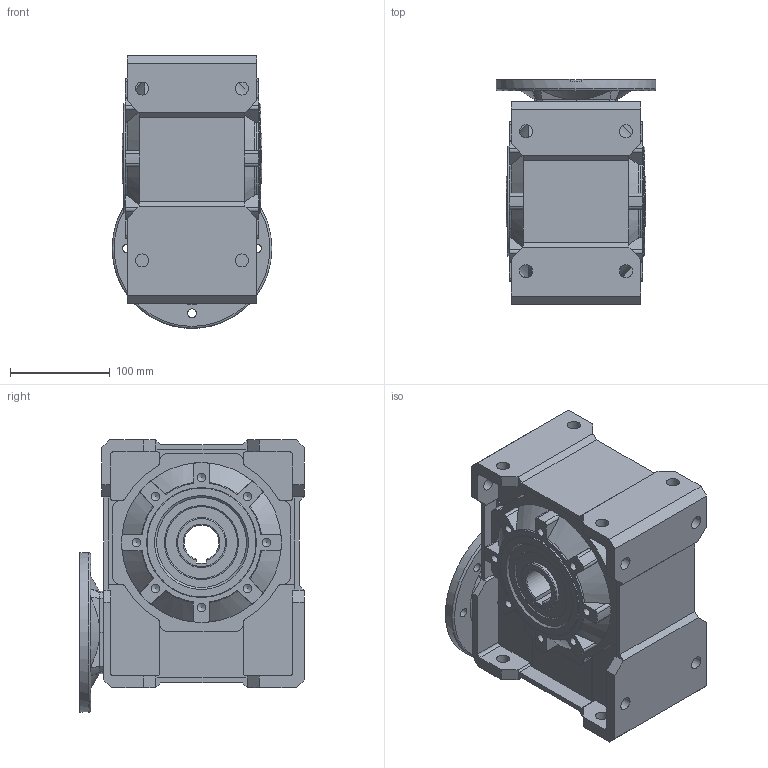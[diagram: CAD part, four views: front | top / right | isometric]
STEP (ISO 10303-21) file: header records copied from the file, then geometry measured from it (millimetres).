
FILE_DESCRIPTION( ( 'Unknown' ), '1' );
FILE_NAME( 'E:/services/configuratordownloads/customers/tramec/xh/download/9AAC9BA2F0F97E746EC7C6F17DD9E50/STEP/9AAC9BA2F0F97E746EC7C6F17DD9E50.3d.stp', 'Unknown', ( 'Unknown' ), ( 'Unknown' ), 'PSStep 10.1', 'Unknown', ' ' );
FILE_SCHEMA( ( 'AUTOMOTIVE_DESIGN { 1 0 10303 214 1 1 1 1 }' ) );
Length unit declared in the file: millimetre
Products named in the file (1): 1011635011 Corpo Riduttore XC 90 PAM28
Bounding box: 160 x 225 x 273 mm (x, y, z)
Volume: 3055516.3 mm3; surface area: 558685.7 mm2
Topology: 1 solids, 3 shells, 642 faces, 1689 edges, 1089 vertices
Faces by surface type: plane 329, cylinder 218, cone 65, torus 30
Full cylindrical faces by diameter (mm): 0.1 x1, 8.5 x16, 9 x8, 13 x14, 15 x4, 40.005 x2, 50 x4, 58 x1, 72.01 x2, 80 x2, 90 x1, 110 x3, 118 x1, 155 x1, 160 x2
Entity records: 24834 total; most frequent: CARTESIAN_POINT 4292, DIRECTION 3234, ORIENTED_EDGE 3042, EDGE_CURVE 1521, AXIS2_PLACEMENT_3D 1206, VERTEX_POINT 1046, EDGE_LOOP 837, LINE 822
